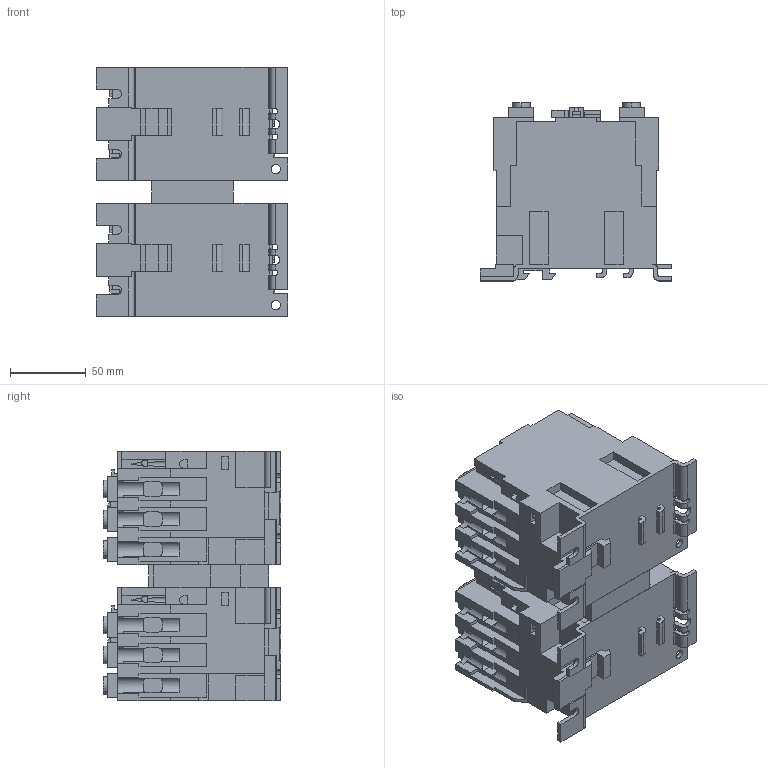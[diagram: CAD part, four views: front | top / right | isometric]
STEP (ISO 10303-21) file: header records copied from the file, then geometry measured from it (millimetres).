
FILE_DESCRIPTION (( 'STEP AP214' ), '1' );
FILE_NAME ('Êîíòàêòîð ÏÌË-4500-63À-380AC-ÓÕË4-Á.STEP', '2016-05-25T11:31:29', ( '' ), ( '' ), 'SwSTEP 2.0', 'SolidWorks 2012', '' );
FILE_SCHEMA (( 'AUTOMOTIVE_DESIGN' ));
Length unit declared in the file: millimetre
Products named in the file (1): Êîíòàêòîð ÏÌË-4500-63À-380AC-ÓÕË4-Á
Bounding box: 127 x 117.8 x 165 mm (x, y, z)
Volume: 1482914.7 mm3; surface area: 179016.5 mm2
Topology: 3 solids, 3 shells, 1508 faces, 4210 edges, 2786 vertices
Faces by surface type: plane 1154, cylinder 316, cone 36, bspline 2
Entity records: 65312 total; most frequent: CARTESIAN_POINT 9315, ORIENTED_EDGE 8420, DIRECTION 7936, EDGE_CURVE 4210, VECTOR 3186, LINE 3186, VERTEX_POINT 2786, AXIS2_PLACEMENT_3D 2375
